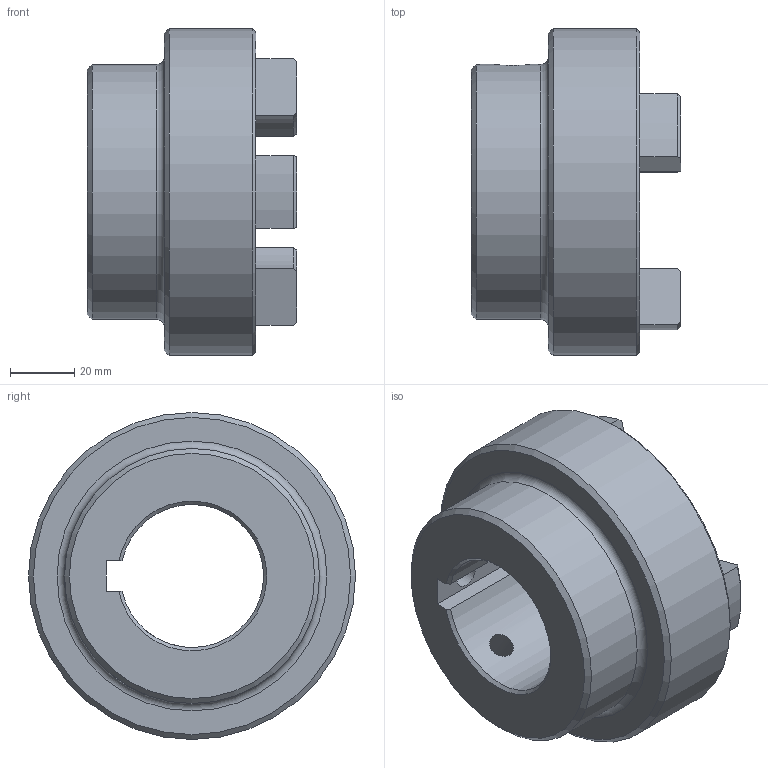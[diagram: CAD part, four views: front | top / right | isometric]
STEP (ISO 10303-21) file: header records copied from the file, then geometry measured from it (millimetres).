
FILE_DESCRIPTION (( 'STEP AP203' ), '1' );
FILE_NAME ('RC4.step', '2024-07-24T17:46:56', ( 'Adlan' ), ( '' ), 'SwSTEP 2.0', 'SolidWorks 2013', '' );
FILE_SCHEMA (( 'CONFIG_CONTROL_DESIGN' ));
Length unit declared in the file: inch
Products named in the file (1): RC4
Bounding box: 65.02 x 101.6 x 101.6 mm (x, y, z)
Volume: 218532.1 mm3; surface area: 41222.1 mm2
Topology: 1 solids, 1 shells, 67 faces, 168 edges, 105 vertices
Faces by surface type: cylinder 26, plane 16, torus 13, cone 12
Full cylindrical faces by diameter (mm): 7.937 x2, 79.248 x1, 101.6 x1
Entity records: 2277 total; most frequent: CARTESIAN_POINT 602, DIRECTION 354, ORIENTED_EDGE 310, EDGE_CURVE 155, AXIS2_PLACEMENT_3D 142, VERTEX_POINT 102, EDGE_LOOP 85, CIRCLE 74
